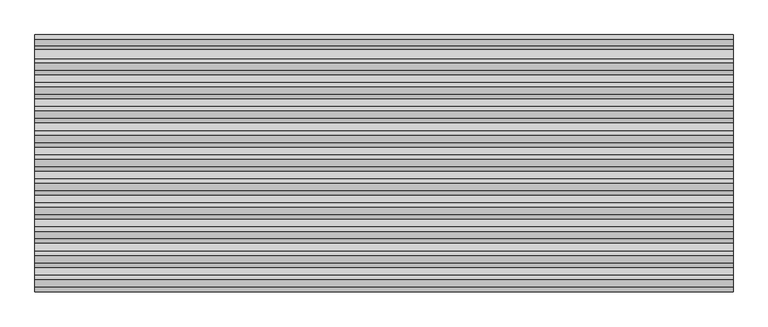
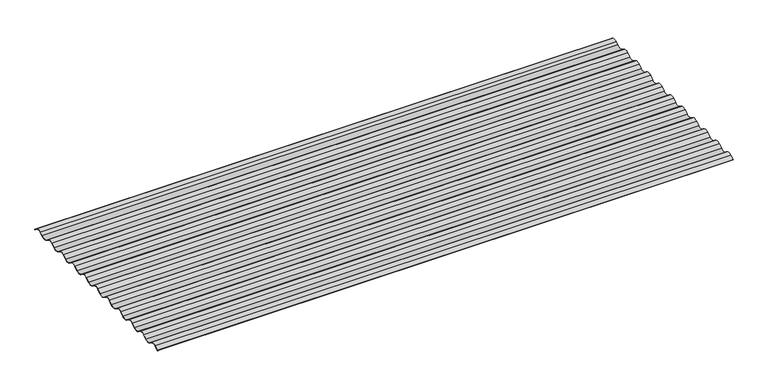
"""IFC4 building model written with IfcOpenShell, lengths in millimetres: beam geometry, 3D_Metalcraft Corrugate : Corrugate 2."""

from ifc_helpers import new_model, si_unit, point, frame, frame_2d, origin, place, context, project, spatial, polyline, circle_curve, trimmed, segment, composite_curve, outline, extrude, source, transform, mapped, element, save


def beam_13ac7b86(model_context):
    return source(origin(), model_context, "Body", "SweptSolid", [
        extrude(outline(composite_curve([segment(trimmed(circle_curve(frame_2d((-114.0, -3.7896475)), 22.0), [point((-101.5070748, -21.8983973))], [point((-126.4929252, -21.8983973))], False, "CARTESIAN"), True, "CONTINUOUS"), segment(polyline([(-126.4929252, -21.8983973), (-140.8417071, -11.9994114)]), True, "CONTINUOUS"), segment(trimmed(circle_curve(frame_2d((-152.0, -29.7896475)), 21.0), [point((-140.8417071, -11.9994114))], [point((-163.1582929, -11.9994114))], True, "CARTESIAN"), True, "CONTINUOUS"), segment(polyline([(-163.1582929, -11.9994114), (-177.5070748, -21.8983973)]), True, "CONTINUOUS"), segment(trimmed(circle_curve(frame_2d((-190.0, -3.7896475)), 22.0), [point((-177.5070748, -21.8983973))], [point((-202.4929252, -21.8983973))], False, "CARTESIAN"), True, "CONTINUOUS"), segment(polyline([(-202.4929252, -21.8983973), (-216.8417071, -11.9994114)]), True, "CONTINUOUS"), segment(trimmed(circle_curve(frame_2d((-228.0, -29.7896475)), 21.0), [point((-216.8417071, -11.9994114))], [point((-239.1582929, -11.9994114))], True, "CARTESIAN"), True, "CONTINUOUS"), segment(polyline([(-239.1582929, -11.9994114), (-253.5070748, -21.8983973)]), True, "CONTINUOUS"), segment(trimmed(circle_curve(frame_2d((-266.0, -3.7896475)), 22.0), [point((-253.5070748, -21.8983973))], [point((-278.4929252, -21.8983973))], False, "CARTESIAN"), True, "CONTINUOUS"), segment(polyline([(-278.4929252, -21.8983973), (-292.8417071, -11.9994114)]), True, "CONTINUOUS"), segment(trimmed(circle_curve(frame_2d((-304.0, -29.7896475)), 21.0), [point((-292.8417071, -11.9994114))], [point((-315.1582929, -11.9994114))], True, "CARTESIAN"), True, "CONTINUOUS"), segment(polyline([(-315.1582929, -11.9994114), (-329.5070748, -21.8983973)]), True, "CONTINUOUS"), segment(trimmed(circle_curve(frame_2d((-342.0, -3.7896475)), 22.0), [point((-329.5070748, -21.8983973))], [point((-354.4929252, -21.8983973))], False, "CARTESIAN"), True, "CONTINUOUS"), segment(polyline([(-354.4929252, -21.8983973), (-368.8417071, -11.9994114)]), True, "CONTINUOUS"), segment(trimmed(circle_curve(frame_2d((-380.0, -29.7896475)), 21.0), [point((-368.8417071, -11.9994114))], [point((-391.1582929, -11.9994114))], True, "CARTESIAN"), True, "CONTINUOUS"), segment(polyline([(-391.1582929, -11.9994114), (-405.5070748, -21.8983973)]), True, "CONTINUOUS"), segment(trimmed(circle_curve(frame_2d((-418.0, -3.7896475)), 22.0), [point((-405.5070748, -21.8983973))], [point((-430.4929252, -21.8983973))], False, "CARTESIAN"), True, "CONTINUOUS"), segment(polyline([(-430.4929252, -21.8983973), (-444.8417071, -11.9994114)]), True, "CONTINUOUS"), segment(trimmed(circle_curve(frame_2d((-456.0, -29.7896475)), 21.0), [point((-444.8417071, -11.9994114))], [point((-467.1582929, -11.9994114))], True, "CARTESIAN"), True, "CONTINUOUS"), segment(polyline([(-467.1582929, -11.9994114), (-481.5070748, -21.8983973)]), True, "CONTINUOUS"), segment(trimmed(circle_curve(frame_2d((-494.0, -3.7896475)), 22.0), [point((-481.5070748, -21.8983973))], [point((-506.4929252, -21.8983973))], False, "CARTESIAN"), True, "CONTINUOUS"), segment(polyline([(-506.4929252, -21.8983973), (-520.8417071, -11.9994114)]), True, "CONTINUOUS"), segment(trimmed(circle_curve(frame_2d((-532.0, -29.7896475)), 21.0), [point((-520.8417071, -11.9994114))], [point((-543.1582929, -11.9994114))], True, "CARTESIAN"), True, "CONTINUOUS"), segment(polyline([(-543.1582929, -11.9994114), (-557.5070748, -21.8983973)]), True, "CONTINUOUS"), segment(trimmed(circle_curve(frame_2d((-570.0, -3.7896475)), 22.0), [point((-557.5070748, -21.8983973))], [point((-582.4929252, -21.8983973))], False, "CARTESIAN"), True, "CONTINUOUS"), segment(polyline([(-582.4929252, -21.8983973), (-596.8417071, -11.9994114)]), True, "CONTINUOUS"), segment(trimmed(circle_curve(frame_2d((-608.0, -29.7896475)), 21.0), [point((-596.8417071, -11.9994114))], [point((-619.1582929, -11.9994114))], True, "CARTESIAN"), True, "CONTINUOUS"), segment(polyline([(-619.1582929, -11.9994114), (-633.5070748, -21.8983973)]), True, "CONTINUOUS"), segment(trimmed(circle_curve(frame_2d((-646.0, -3.7896475)), 22.0), [point((-633.5070748, -21.8983973))], [point((-658.4929252, -21.8983973))], False, "CARTESIAN"), True, "CONTINUOUS"), segment(polyline([(-658.4929252, -21.8983973), (-672.8417071, -11.9994114)]), True, "CONTINUOUS"), segment(trimmed(circle_curve(frame_2d((-684.0, -29.7896475)), 21.0), [point((-672.8417071, -11.9994114))], [point((-695.1582929, -11.9994114))], True, "CARTESIAN"), True, "CONTINUOUS"), segment(polyline([(-695.1582929, -11.9994114), (-709.5070748, -21.8983973)]), True, "CONTINUOUS"), segment(trimmed(circle_curve(frame_2d((-722.0, -3.7896475)), 22.0), [point((-709.5070748, -21.8983973))], [point((-734.4929252, -21.8983973))], False, "CARTESIAN"), True, "CONTINUOUS"), segment(polyline([(-734.4929252, -21.8983973), (-748.8417071, -11.9994114)]), True, "CONTINUOUS"), segment(trimmed(circle_curve(frame_2d((-760.0, -29.7896475)), 21.0), [point((-748.8417071, -11.9994114))], [point((-771.1582929, -11.9994114))], True, "CARTESIAN"), True, "CONTINUOUS"), segment(polyline([(-771.1582929, -11.9994114), (-785.1206351, -21.631799)]), True, "CONTINUOUS"), segment(trimmed(circle_curve(frame_2d((-785.4045652, -21.2202365)), 0.5), [point((-785.1206351, -21.631799))], [point((-785.6884953, -20.808674))], False, "CARTESIAN"), True, "CONTINUOUS"), segment(polyline([(-785.6884953, -20.808674), (-771.7083687, -11.1640172)]), True, "CONTINUOUS"), segment(trimmed(circle_curve(frame_2d((-760.0, -29.7896475)), 22.0), [point((-771.7083687, -11.1640172))], [point((-748.2916313, -11.1640172))], False, "CARTESIAN"), True, "CONTINUOUS"), segment(polyline([(-748.2916313, -11.1640172), (-733.925065, -21.0752723)]), True, "CONTINUOUS"), segment(trimmed(circle_curve(frame_2d((-722.0, -3.7896475)), 21.0), [point((-733.925065, -21.0752723))], [point((-710.074935, -21.0752723))], True, "CARTESIAN"), True, "CONTINUOUS"), segment(polyline([(-710.074935, -21.0752723), (-695.7083687, -11.1640172)]), True, "CONTINUOUS"), segment(trimmed(circle_curve(frame_2d((-684.0, -29.7896475)), 22.0), [point((-695.7083687, -11.1640172))], [point((-672.2916313, -11.1640172))], False, "CARTESIAN"), True, "CONTINUOUS"), segment(polyline([(-672.2916313, -11.1640172), (-657.925065, -21.0752723)]), True, "CONTINUOUS"), segment(trimmed(circle_curve(frame_2d((-646.0, -3.7896475)), 21.0), [point((-657.925065, -21.0752723))], [point((-634.074935, -21.0752723))], True, "CARTESIAN"), True, "CONTINUOUS"), segment(polyline([(-634.074935, -21.0752723), (-619.7083687, -11.1640172)]), True, "CONTINUOUS"), segment(trimmed(circle_curve(frame_2d((-608.0, -29.7896475)), 22.0), [point((-619.7083687, -11.1640172))], [point((-596.2916313, -11.1640172))], False, "CARTESIAN"), True, "CONTINUOUS"), segment(polyline([(-596.2916313, -11.1640172), (-581.925065, -21.0752723)]), True, "CONTINUOUS"), segment(trimmed(circle_curve(frame_2d((-570.0, -3.7896475)), 21.0), [point((-581.925065, -21.0752723))], [point((-558.074935, -21.0752723))], True, "CARTESIAN"), True, "CONTINUOUS"), segment(polyline([(-558.074935, -21.0752723), (-543.7083687, -11.1640172)]), True, "CONTINUOUS"), segment(trimmed(circle_curve(frame_2d((-532.0, -29.7896475)), 22.0), [point((-543.7083687, -11.1640172))], [point((-520.2916313, -11.1640172))], False, "CARTESIAN"), True, "CONTINUOUS"), segment(polyline([(-520.2916313, -11.1640172), (-505.925065, -21.0752723)]), True, "CONTINUOUS"), segment(trimmed(circle_curve(frame_2d((-494.0, -3.7896475)), 21.0), [point((-505.925065, -21.0752723))], [point((-482.074935, -21.0752723))], True, "CARTESIAN"), True, "CONTINUOUS"), segment(polyline([(-482.074935, -21.0752723), (-467.7083687, -11.1640172)]), True, "CONTINUOUS"), segment(trimmed(circle_curve(frame_2d((-456.0, -29.7896475)), 22.0), [point((-467.7083687, -11.1640172))], [point((-444.2916313, -11.1640172))], False, "CARTESIAN"), True, "CONTINUOUS"), segment(polyline([(-444.2916313, -11.1640172), (-429.925065, -21.0752723)]), True, "CONTINUOUS"), segment(trimmed(circle_curve(frame_2d((-418.0, -3.7896475)), 21.0), [point((-429.925065, -21.0752723))], [point((-406.074935, -21.0752723))], True, "CARTESIAN"), True, "CONTINUOUS"), segment(polyline([(-406.074935, -21.0752723), (-391.7083687, -11.1640172)]), True, "CONTINUOUS"), segment(trimmed(circle_curve(frame_2d((-380.0, -29.7896475)), 22.0), [point((-391.7083687, -11.1640172))], [point((-368.2916313, -11.1640172))], False, "CARTESIAN"), True, "CONTINUOUS"), segment(polyline([(-368.2916313, -11.1640172), (-353.925065, -21.0752723)]), True, "CONTINUOUS"), segment(trimmed(circle_curve(frame_2d((-342.0, -3.7896475)), 21.0), [point((-353.925065, -21.0752723))], [point((-330.074935, -21.0752723))], True, "CARTESIAN"), True, "CONTINUOUS"), segment(polyline([(-330.074935, -21.0752723), (-315.7083687, -11.1640172)]), True, "CONTINUOUS"), segment(trimmed(circle_curve(frame_2d((-304.0, -29.7896475)), 22.0), [point((-315.7083687, -11.1640172))], [point((-292.2916313, -11.1640172))], False, "CARTESIAN"), True, "CONTINUOUS"), segment(polyline([(-292.2916313, -11.1640172), (-277.925065, -21.0752723)]), True, "CONTINUOUS"), segment(trimmed(circle_curve(frame_2d((-266.0, -3.7896475)), 21.0), [point((-277.925065, -21.0752723))], [point((-254.074935, -21.0752723))], True, "CARTESIAN"), True, "CONTINUOUS"), segment(polyline([(-254.074935, -21.0752723), (-239.7083687, -11.1640172)]), True, "CONTINUOUS"), segment(trimmed(circle_curve(frame_2d((-228.0, -29.7896475)), 22.0), [point((-239.7083687, -11.1640172))], [point((-216.2916313, -11.1640172))], False, "CARTESIAN"), True, "CONTINUOUS"), segment(polyline([(-216.2916313, -11.1640172), (-201.925065, -21.0752723)]), True, "CONTINUOUS"), segment(trimmed(circle_curve(frame_2d((-190.0, -3.7896475)), 21.0), [point((-201.925065, -21.0752723))], [point((-178.074935, -21.0752723))], True, "CARTESIAN"), True, "CONTINUOUS"), segment(polyline([(-178.074935, -21.0752723), (-163.7083687, -11.1640172)]), True, "CONTINUOUS"), segment(trimmed(circle_curve(frame_2d((-152.0, -29.7896475)), 22.0), [point((-163.7083687, -11.1640172))], [point((-140.2916313, -11.1640172))], False, "CARTESIAN"), True, "CONTINUOUS"), segment(polyline([(-140.2916313, -11.1640172), (-125.925065, -21.0752723)]), True, "CONTINUOUS"), segment(trimmed(circle_curve(frame_2d((-114.0, -3.7896475)), 21.0), [point((-125.925065, -21.0752723))], [point((-102.074935, -21.0752723))], True, "CARTESIAN"), True, "CONTINUOUS"), segment(polyline([(-102.074935, -21.0752723), (-87.7083687, -11.1640172)]), True, "CONTINUOUS"), segment(trimmed(circle_curve(frame_2d((-76.0, -29.7896475)), 22.0), [point((-87.7083687, -11.1640172))], [point((-64.2916313, -11.1640172))], False, "CARTESIAN"), True, "CONTINUOUS"), segment(polyline([(-64.2916313, -11.1640172), (-51.2411976, -20.1672943)]), True, "CONTINUOUS"), segment(trimmed(circle_curve(frame_2d((-36.2390033, 1.8579031)), 26.6491117), [point((-51.2411976, -20.1672943))], [point((-21.236809, -20.1672943))], True, "CARTESIAN"), True, "CONTINUOUS"), segment(polyline([(-21.236809, -20.1672943), (-10.6086461, -12.8351015)]), True, "CONTINUOUS"), segment(trimmed(circle_curve(frame_2d((0.0, -29.7896475)), 20.0), [point((-10.6086461, -12.8351015))], [point((10.6086461, -12.8351015))], False, "CARTESIAN"), True, "CONTINUOUS"), segment(polyline([(10.6086461, -12.8351015), (24.9392146, -22.7215223)]), True, "CONTINUOUS"), segment(trimmed(circle_curve(frame_2d((24.6552844, -23.1330848)), 0.5), [point((24.9392146, -22.7215223))], [point((24.3713543, -23.5446473))], False, "CARTESIAN"), True, "CONTINUOUS"), segment(polyline([(24.3713543, -23.5446473), (10.0594608, -13.6711101)]), True, "CONTINUOUS"), segment(trimmed(circle_curve(frame_2d((0.0, -29.7896475)), 19.0), [point((10.0594608, -13.6711101))], [point((-10.0594608, -13.6711101))], True, "CARTESIAN"), True, "CONTINUOUS"), segment(polyline([(-10.0594608, -13.6711101), (-20.4055053, -20.808674)]), True, "CONTINUOUS"), segment(trimmed(circle_curve(frame_2d((-36.2390033, 1.8579031)), 27.6491117), [point((-20.4055053, -20.808674))], [point((-51.8066318, -20.992093))], False, "CARTESIAN"), True, "CONTINUOUS"), segment(polyline([(-51.8066318, -20.992093), (-64.8417071, -11.9994114)]), True, "CONTINUOUS"), segment(trimmed(circle_curve(frame_2d((-76.0, -29.7896475)), 21.0), [point((-64.8417071, -11.9994114))], [point((-87.1582929, -11.9994114))], True, "CARTESIAN"), True, "CONTINUOUS"), segment(polyline([(-87.1582929, -11.9994114), (-101.5070748, -21.8983973)]), True, "CONTINUOUS")], self_intersect=False)), frame((-1100.6390189, 0.0, 0.0), z_axis=(1.0, 0.0, 0.0), x_axis=(0.0, 1.0, 0.0)), (0.0, 0.0, 1.0), 2201.2780379),
    ])


if __name__ == "__main__":
    model = new_model("IFC4")
    model_context = context("Model", 3, world=origin())
    ifc_project = project(units=[si_unit("LENGTHUNIT", "METRE", prefix="MILLI")], contexts=[model_context])
    site = spatial("IfcSite", under=ifc_project)
    building = spatial("IfcBuilding", under=site)
    placement = place(None, origin())
    beam_shape = beam_13ac7b86(model_context)
    element("IfcBeam", 1, ObjectType="3D_Metalcraft Corrugate : Corrugate 2", at=placement, inside=building, context=model_context, shape_type="MappedRepresentation", body=[
        mapped(beam_shape, transform((0.0, 0.0, 0.0), x_axis=(1.0, 0.0, 0.0), y_axis=(0.0, 1.0, 0.0), z_axis=(0.0, 0.0, 1.0))),
    ])
    save(model, "model.ifc")
